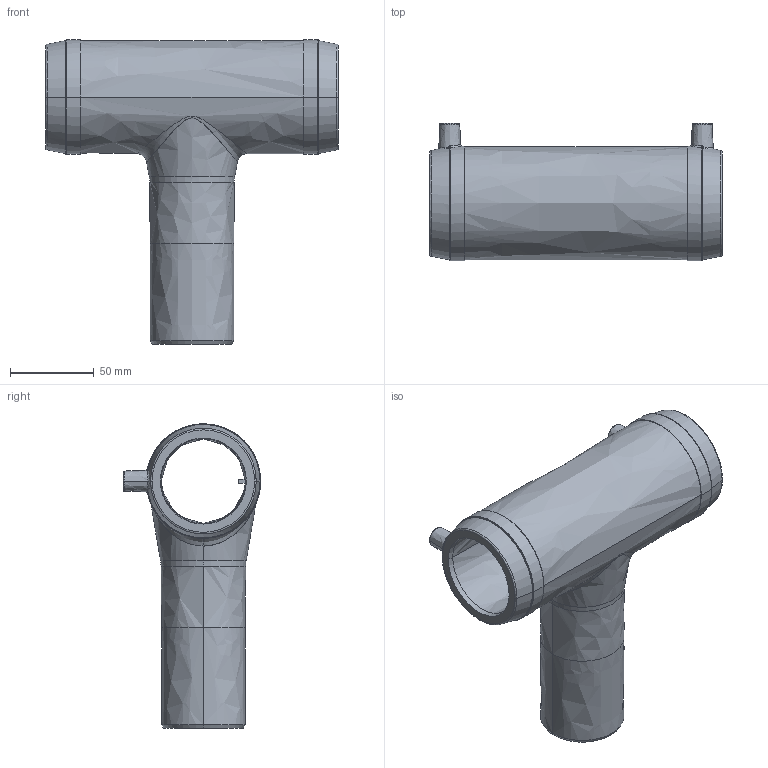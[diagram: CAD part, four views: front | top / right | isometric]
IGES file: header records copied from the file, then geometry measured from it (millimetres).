
Start section:  PTC IGES file: ta_d50-50_01.igs
Global section: file name: ta_d50-50_01.igs; native system: Pro/ENGINEER by Parametric Technology Corporation; preprocessor: 2011490; author: mtunjic; organization: Unknown; date: 20130812.120330; units: millimetre
Bounding box: 175 x 82.05 x 181.93 mm (x, y, z)
Surface area: 100888.9 mm2 (no closed solid volume)
Topology: 0 solids, 0 shells, 208 faces, 1016 edges, 1016 vertices
Faces by surface type: bspline 208
